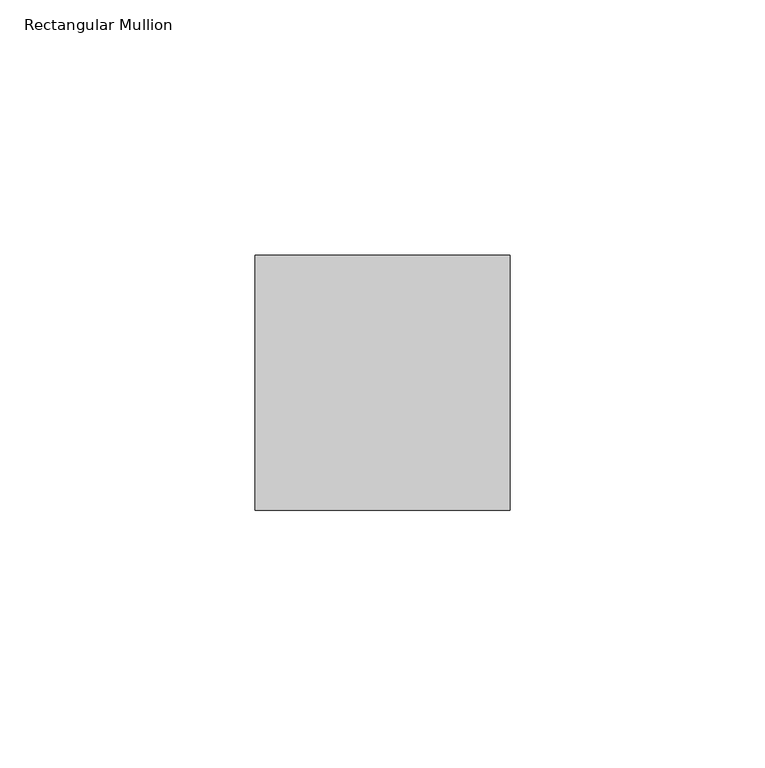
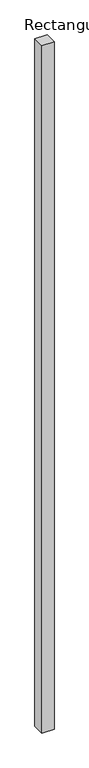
"""IFC4 building model written with IfcOpenShell, lengths in millimetres: member geometry, Rectangular Mullion : RSen_21_CWM_support profile - 50x50_gen_duco projects."""

from ifc_helpers import new_model, si_unit, frame, origin, place, context, project, spatial, polyline, outline, extrude, source, transform, mapped, element, save


def rectangular_mullion_5829b51c(model_context):
    return source(origin(), model_context, "Body", "SweptSolid", [
        extrude(outline(polyline([(25.0, 1.0), (25.0, -49.0), (-25.0, -49.0), (-25.0, 1.0), (25.0, 1.0)])), frame((0.0, 0.0, -3000.0), z_axis=(0.0, 0.0, 1.0), x_axis=(1.0, 0.0, 0.0)), (0.0, 0.0, 1.0), 3000.0),
    ])


if __name__ == "__main__":
    model = new_model("IFC4")
    model_context = context("Model", 3, world=origin())
    ifc_project = project(units=[si_unit("LENGTHUNIT", "METRE", prefix="MILLI")], contexts=[model_context])
    site = spatial("IfcSite", under=ifc_project)
    building = spatial("IfcBuilding", under=site)
    placement = place(None, origin())
    rectangular_mullion_shape = rectangular_mullion_5829b51c(model_context)
    element("IfcMember", 1, ObjectType="Rectangular Mullion : RSen_21_CWM_support profile - 50x50_gen_duco projects", at=placement, inside=building, context=model_context, shape_type="MappedRepresentation", body=[
        mapped(rectangular_mullion_shape, transform((0.0, 0.0, 0.0), x_axis=(1.0, 0.0, 0.0), y_axis=(0.0, 1.0, 0.0), z_axis=(0.0, 0.0, 1.0))),
    ])
    save(model, "model.ifc")
